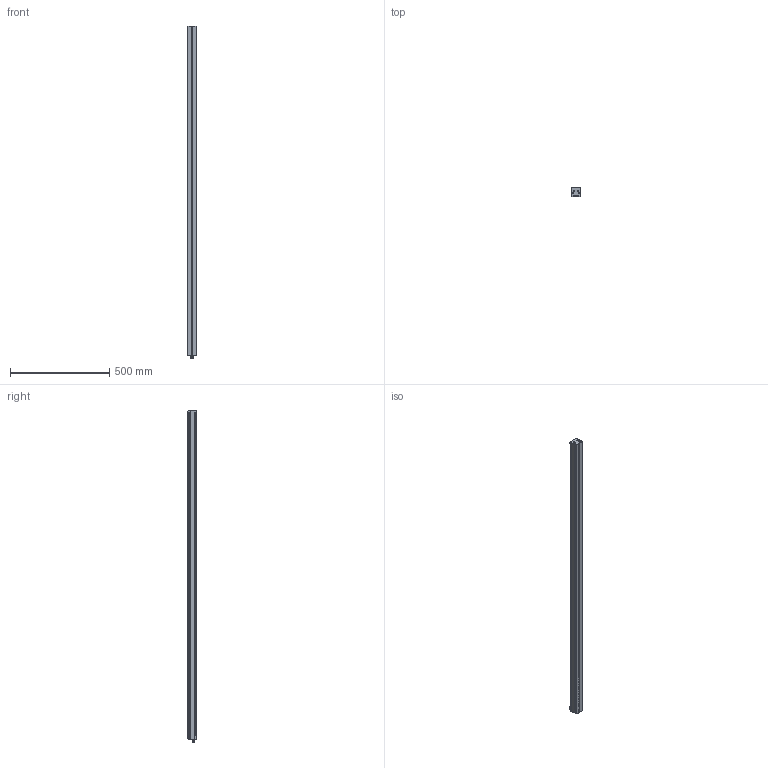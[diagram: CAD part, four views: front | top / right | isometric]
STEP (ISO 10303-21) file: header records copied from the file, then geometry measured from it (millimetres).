
FILE_DESCRIPTION (( 'STEP AP214' ), '1' );
FILE_NAME ('EBAR-HPS-1625-xxx-UN_CLIENT.STEP', '2025-11-18T13:04:19', ( '' ), ( '' ), 'SwSTEP 2.0', 'SolidWorks 2025', '' );
FILE_SCHEMA (( 'AUTOMOTIVE_DESIGN' ));
Length unit declared in the file: millimetre
Products named in the file (3): EBAR-HPS-1625-xxx-UN_CLIENT; M4 T-Slot Nut; EBAR-HPS-xxx-xxx-xx_CLIENT - T-Power_1625
Assembly tree (37 placements, depth 2):
  EBAR-HPS-1625-xxx-UN_CLIENT
    EBAR-HPS-xxx-xxx-xx_CLIENT - T-Power_1625
    M4 T-Slot Nut  x36
Bounding box: 47.63 x 45 x 1670.06 mm (x, y, z)
Volume: 2816296 mm3; surface area: 405605.3 mm2
Topology: 37 solids, 37 shells, 1424 faces, 3688 edges, 2428 vertices
Faces by surface type: plane 799, cylinder 371, bspline 140, torus 62, sphere 40, cone 12
Entity records: 29649 total; most frequent: CARTESIAN_POINT 10335, ORIENTED_EDGE 4138, DIRECTION 3640, EDGE_CURVE 2069, VERTEX_POINT 1343, AXIS2_PLACEMENT_3D 1252, LINE 1136, VECTOR 1136
